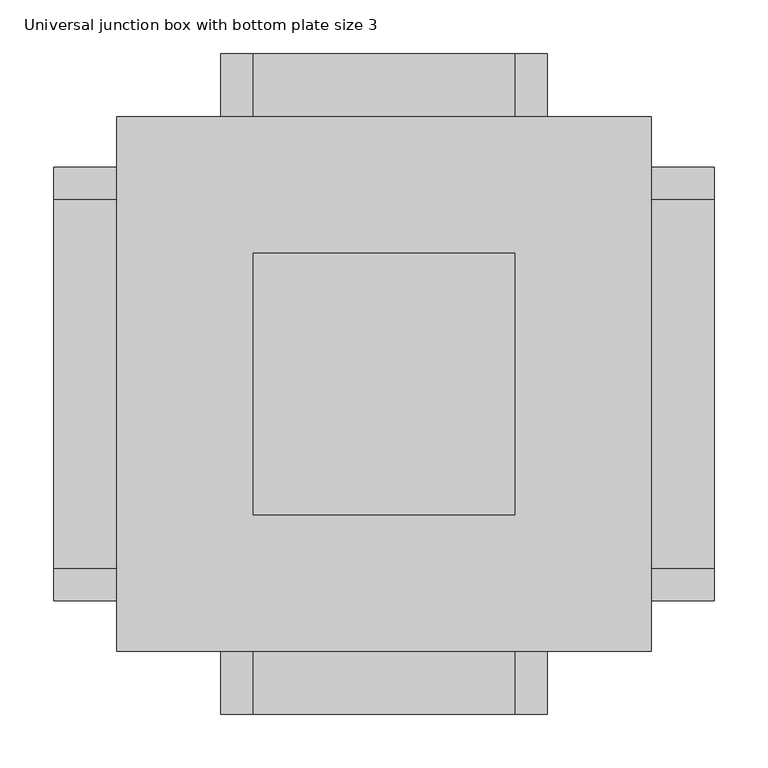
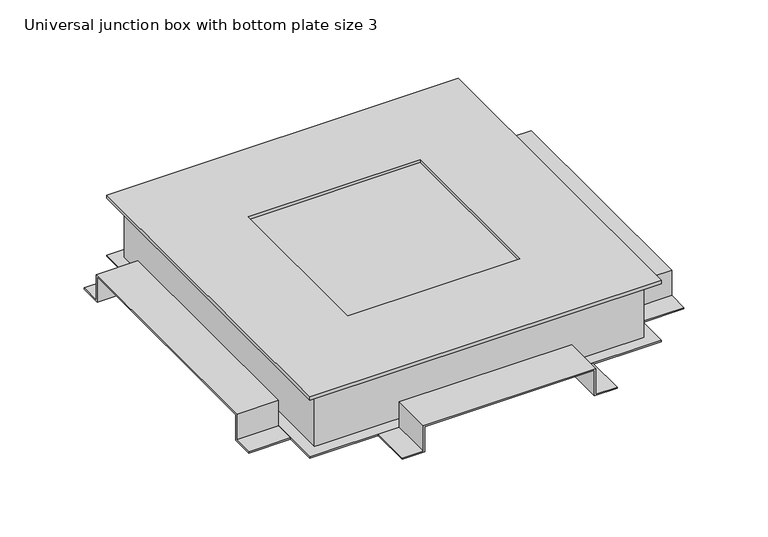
"""IFC4 building model written with IfcOpenShell, lengths in millimetres: cable carrier fitting geometry, Electrical-Installations_Hager_Universal-Junction-Box-With-Bottom-Plate-Size-3 : Universal junction box with bottom plate size 3."""

import ifcopenshell
import ifcopenshell.guid

model = None  # the IFC model being written
_history = None  # IfcOwnerHistory: only IFC2X3 demands one
_inside = {}  # id of a spatial element -> (the spatial element, [elements in it])
_under = {}  # id of a project, library or spatial element -> (it, [spatial elements below it])
_declared = {}  # id of a project -> (the project, [libraries it declares])
_typed = {}  # id of a type object -> (the type object, [elements of that type])
_made_of = {}  # id of a material, layer set ... -> (it, [elements and type objects made of it])


def new_model(schema):
    """Start an empty IFC model of exactly this schema.

    Asked for "IFC4X3", IfcOpenShell would pick the latest addendum, in which some entities
    have other attributes; the version numbers below select the first issue.
    IFC2X3 requires an IfcOwnerHistory on every rooted entity: one is made here for all.
    """
    global model, _history
    if schema == "IFC4X3":
        model = ifcopenshell.file(schema_version=(4, 3, 0, 0))
    else:
        model = ifcopenshell.file(schema=schema)
    _inside.clear()
    _under.clear()
    _declared.clear()
    _typed.clear()
    _made_of.clear()
    _history = None
    if model.schema == "IFC2X3":
        org = make("IfcOrganization", Name="unknown")
        user = make(
            "IfcPersonAndOrganization",
            ThePerson=make("IfcPerson", FamilyName="unknown"),
            TheOrganization=org,
        )
        app = make(
            "IfcApplication",
            ApplicationDeveloper=org,
            Version="unknown",
            ApplicationFullName="unknown",
            ApplicationIdentifier="unknown",
        )
        _history = make(
            "IfcOwnerHistory",
            OwningUser=user,
            OwningApplication=app,
            ChangeAction="ADDED",
            CreationDate=0,
        )
    return model


def make(cls, **values):
    """One entity of the class cls with the attributes given. An attribute that is None is left unset."""
    return model.create_entity(
        cls, **{name: value for name, value in values.items() if value is not None}
    )


def rooted(cls, **values):
    """An entity with a GlobalId (a new one), such as an element, a storey or a relation."""
    return make(cls, GlobalId=ifcopenshell.guid.new(), OwnerHistory=_history, **values)


def si_unit(unit_type, name, prefix=None):
    """IfcSIUnit, for example si_unit("LENGTHUNIT", "METRE", prefix="MILLI")."""
    return make("IfcSIUnit", UnitType=unit_type, Prefix=prefix, Name=name)


def assignment(units):
    """IfcUnitAssignment: the units of a project."""
    return None if units is None else make("IfcUnitAssignment", Units=units)


def point(xyz):
    """IfcCartesianPoint."""
    return None if xyz is None else make("IfcCartesianPoint", Coordinates=xyz)


def direction(xyz):
    """IfcDirection."""
    return None if xyz is None else make("IfcDirection", DirectionRatios=xyz)


def frame(location, z_axis=None, x_axis=None):
    """IfcAxis2Placement3D, a coordinate frame: its origin and axes. An axis left out is left unset."""
    return make(
        "IfcAxis2Placement3D",
        Location=point(location),
        Axis=direction(z_axis),
        RefDirection=direction(x_axis),
    )


def origin():
    """The frame at (0, 0, 0) with its axes left unset."""
    return frame((0.0, 0.0, 0.0))


def place(relative_to, where):
    """IfcLocalPlacement: puts the frame where relative to a parent placement (None: the world)."""
    return make(
        "IfcLocalPlacement", PlacementRelTo=relative_to, RelativePlacement=where
    )


def context(
    kind, dimensions, precision=None, world=None, true_north=None, identifier=None
):
    """IfcGeometricRepresentationContext, for example the 3D "Model" context."""
    return make(
        "IfcGeometricRepresentationContext",
        ContextIdentifier=identifier,
        ContextType=kind,
        CoordinateSpaceDimension=dimensions,
        Precision=precision,
        WorldCoordinateSystem=world,
        TrueNorth=true_north,
    )


def project(units=None, contexts=None):
    """IfcProject with its units and contexts."""
    return rooted(
        "IfcProject",
        Name="project",
        RepresentationContexts=contexts,
        UnitsInContext=assignment(units),
    )


def spatial(cls, under=None, at=None, **own):
    """A site, building, storey or space (cls), placed at a placement, below another one or the project."""
    s = rooted(cls, ObjectPlacement=at, **own)
    if under is not None:
        _under.setdefault(under.id(), (under, []))[1].append(s)
    return s


def polyline(points):
    """IfcPolyline through the points."""
    return make("IfcPolyline", Points=[point(p) for p in points])


def outline(outer, holes=None, kind="AREA"):
    """IfcArbitraryClosedProfileDef: a profile drawn as a closed curve; with holes, ...WithVoids."""
    if holes is None:
        return make("IfcArbitraryClosedProfileDef", ProfileType=kind, OuterCurve=outer)
    return make(
        "IfcArbitraryProfileDefWithVoids",
        ProfileType=kind,
        OuterCurve=outer,
        InnerCurves=holes,
    )


def extrude(swept, where, along, depth):
    """IfcExtrudedAreaSolid: the profile swept, set in the frame where, extruded along a direction by depth."""
    return make(
        "IfcExtrudedAreaSolid",
        SweptArea=swept,
        Position=where,
        ExtrudedDirection=direction(along),
        Depth=depth,
    )


def faces_of(points, faces, orient=None, outer=None):
    """IfcFace entities. A face is a list of loops; a loop is a list of indices into points, from 0.

    orient and outer hold one flag for each loop. By default every Orientation is true, the
    first loop of a face is its IfcFaceOuterBound and the others are IfcFaceBound.
    """
    made = []
    for i, loops in enumerate(faces):
        bounds = []
        for j, loop in enumerate(loops):
            is_outer = j == 0 if outer is None else outer[i][j]
            bounds.append(
                make(
                    "IfcFaceOuterBound" if is_outer else "IfcFaceBound",
                    Bound=make("IfcPolyLoop", Polygon=[points[k] for k in loop]),
                    Orientation=True if orient is None else orient[i][j],
                )
            )
        made.append(make("IfcFace", Bounds=bounds))
    return made


def faceted_brep(points, faces, orient=None, outer=None, voids=None):
    """IfcFacetedBrep: a solid bounded by flat faces; with voids (closed shells), ...WithVoids."""
    shared = [point(p) for p in points]
    hull = make("IfcClosedShell", CfsFaces=faces_of(shared, faces, orient, outer))
    if voids is None:
        return make("IfcFacetedBrep", Outer=hull)
    return make(
        "IfcFacetedBrepWithVoids",
        Outer=hull,
        Voids=[
            make(cls, CfsFaces=faces_of(shared, fs, o, b)) for cls, fs, o, b in voids
        ],
    )


def shape(context_of_items, identifier, shape_type, items):
    """IfcShapeRepresentation: the items that make up one representation, for example the "Body"."""
    return make(
        "IfcShapeRepresentation",
        ContextOfItems=context_of_items,
        RepresentationIdentifier=identifier,
        RepresentationType=shape_type,
        Items=items,
    )


def source(mapping_origin, context_of_items, identifier, shape_type, items):
    """IfcRepresentationMap: a shape defined once, which mapped items show again and again."""
    return make(
        "IfcRepresentationMap",
        MappingOrigin=mapping_origin,
        MappedRepresentation=shape(context_of_items, identifier, shape_type, items),
    )


def transform(
    local_origin,
    x_axis=None,
    y_axis=None,
    z_axis=None,
    scale=None,
    scale2=None,
    scale3=None,
    uniform=True,
):
    """IfcCartesianTransformationOperator3D, or its non-uniform kind. x_axis, y_axis, z_axis: its Axis1, 2, 3."""
    if uniform:
        return make(
            "IfcCartesianTransformationOperator3D",
            Axis1=direction(x_axis),
            Axis2=direction(y_axis),
            LocalOrigin=point(local_origin),
            Scale=scale,
            Axis3=direction(z_axis),
        )
    return make(
        "IfcCartesianTransformationOperator3DnonUniform",
        Axis1=direction(x_axis),
        Axis2=direction(y_axis),
        LocalOrigin=point(local_origin),
        Scale=scale,
        Axis3=direction(z_axis),
        Scale2=scale2,
        Scale3=scale3,
    )


def mapped(mapping_source, mapping_target):
    """IfcMappedItem: shows the shape of a source again, moved by a transform."""
    return make(
        "IfcMappedItem", MappingSource=mapping_source, MappingTarget=mapping_target
    )


def made_of(thing, what):
    """Note that an element or type object is made of a material, layer set ...; save() writes the relation."""
    if what is not None:
        _made_of.setdefault(what.id(), (what, []))[1].append(thing)
    return thing


def element(
    cls,
    number,
    at=None,
    inside=None,
    cuts=None,
    type_object=None,
    material=None,
    context=None,
    identifier="Body",
    shape_type=None,
    held_by="IfcProductDefinitionShape",
    body=None,
    shapes=None,
    **own,
):
    """One element of the class cls, such as IfcWall. Its Tag is "e" and its number.

    at: its placement. inside: the storey or other place that contains it. cuts: it is an
    opening in that element (IfcRelVoidsElement). A single representation is given by context,
    identifier, shape_type and body (its items); several are given by shapes. held_by: the class
    of the entity that holds the representations. save() writes the other relations.
    """
    e = rooted(cls, Tag="e%d" % number, ObjectPlacement=at, **own)
    if body is not None:
        shapes = [shape(context, identifier, shape_type, body)]
    if shapes is not None:
        e.Representation = make(held_by, Representations=shapes)
    if inside is not None:
        _inside.setdefault(inside.id(), (inside, []))[1].append(e)
    if cuts is not None:
        rooted(
            "IfcRelVoidsElement", RelatingBuildingElement=cuts, RelatedOpeningElement=e
        )
    if type_object is not None:
        _typed.setdefault(type_object.id(), (type_object, []))[1].append(e)
    return made_of(e, material)


def aggregate(whole, parts):
    """IfcRelAggregates: a whole, such as a stair, and the parts it consists of."""
    return rooted("IfcRelAggregates", RelatingObject=whole, RelatedObjects=parts)


def save(model, path):
    """Write the relations noted so far, then the file.

    IfcRelAggregates (storeys below a building ...), IfcRelContainedInSpatialStructure (elements
    in a storey), IfcRelDefinesByType, IfcRelAssociatesMaterial and IfcRelDeclares: one each for
    every whole, place, type object, material and project.
    """
    for whole, parts in _under.values():
        aggregate(whole, parts)
    for where, things in _inside.values():
        rooted(
            "IfcRelContainedInSpatialStructure",
            RelatedElements=things,
            RelatingStructure=where,
        )
    for kind, things in _typed.values():
        rooted("IfcRelDefinesByType", RelatedObjects=things, RelatingType=kind)
    for what, things in _made_of.values():
        rooted("IfcRelAssociatesMaterial", RelatedObjects=things, RelatingMaterial=what)
    for by, libraries in _declared.values():
        rooted("IfcRelDeclares", RelatingContext=by, RelatedDefinitions=libraries)
    model.write(path)


def universal_junction_box_with_bottom_plate_size_3_e983a607(model_context):
    return source(origin(), model_context, "Body", "SolidModel", [
        extrude(outline(polyline([(-19.0, -152.0), (-19.0, -120.0), (19.0, -120.0), (19.0, 120.0), (-19.0, 120.0), (-19.0, 152.0), (-17.0, 152.0), (-17.0, 122.0), (21.0, 122.0), (21.0, -122.0), (-17.0, -122.0), (-17.0, -152.0), (-19.0, -152.0)])), frame((0.0, 249.0, 0.0), z_axis=(0.0, 1.0, 0.0), x_axis=(0.0, 0.0, 1.0)), (0.0, 0.0, 1.0), 59.0),
        extrude(outline(polyline([(-202.0, -19.0), (-202.0, -17.0), (-172.0, -17.0), (-172.0, 21.0), (172.0, 21.0), (172.0, -17.0), (202.0, -17.0), (202.0, -19.0), (170.0, -19.0), (170.0, 19.0), (-170.0, 19.0), (-170.0, -19.0), (-202.0, -19.0)])), frame((-308.0, 0.0, 0.0), z_axis=(1.0, 0.0, 0.0), x_axis=(0.0, 1.0, 0.0)), (0.0, 0.0, 1.0), 59.0),
        extrude(outline(polyline([(-19.0, -152.0), (-19.0, -120.0), (19.0, -120.0), (19.0, 120.0), (-19.0, 120.0), (-19.0, 152.0), (-17.0, 152.0), (-17.0, 122.0), (21.0, 122.0), (21.0, -122.0), (-17.0, -122.0), (-17.0, -152.0), (-19.0, -152.0)])), frame((0.0, -308.0, 0.0), z_axis=(0.0, 1.0, 0.0), x_axis=(0.0, 0.0, 1.0)), (0.0, 0.0, 1.0), 59.0),
        extrude(outline(polyline([(-202.0, -19.0), (-202.0, -17.0), (-172.0, -17.0), (-172.0, 21.0), (172.0, 21.0), (172.0, -17.0), (202.0, -17.0), (202.0, -19.0), (170.0, -19.0), (170.0, 19.0), (-170.0, 19.0), (-170.0, -19.0), (-202.0, -19.0)])), frame((249.0, 0.0, 0.0), z_axis=(1.0, 0.0, 0.0), x_axis=(0.0, 1.0, 0.0)), (0.0, 0.0, 1.0), 59.0),
        faceted_brep([(-249.0, -249.0, 73.0), (249.0, -249.0, 73.0), (249.0, 249.0, 73.0), (-249.0, 249.0, 73.0), (-122.0, 122.0, 73.0), (122.0, 122.0, 73.0), (122.0, -122.0, 73.0), (-122.0, -122.0, 73.0), (-249.0, -249.0, 68.0), (-249.0, 249.0, 68.0), (249.0, 249.0, 68.0), (249.0, -249.0, 68.0), (227.0, 227.0, 68.0), (-227.0, 227.0, 68.0), (-227.0, -227.0, 68.0), (227.0, -227.0, 68.0), (-122.0, 122.0, 68.7820613), (122.0, 122.0, 68.7820613), (122.0, -122.0, 68.7820613), (-122.0, -122.0, 68.7820613), (227.0, 227.0, 68.7820613), (227.0, -227.0, 68.7820613), (-227.0, -227.0, 68.7820613), (-227.0, 227.0, 68.7820613)], [[[0, 1, 2, 3], [4, 5, 6, 7]], [[8, 9, 10, 11], [12, 13, 14, 15]], [[1, 0, 8, 11]], [[2, 1, 11, 10]], [[3, 2, 10, 9]], [[0, 3, 9, 8]], [[5, 4, 16, 17]], [[6, 5, 17, 18]], [[7, 6, 18, 19]], [[4, 7, 19, 16]], [[20, 21, 22, 23], [17, 16, 19, 18]], [[20, 23, 13, 12]], [[23, 22, 14, 13]], [[22, 21, 15, 14]], [[21, 20, 12, 15]]]),
        extrude(outline(polyline([(249.0, 249.0), (249.0, -249.0), (-249.0, -249.0), (-249.0, 249.0), (249.0, 249.0)])), frame((0.0, 0.0, -19.0), z_axis=(0.0, 0.0, 1.0), x_axis=(1.0, 0.0, 0.0)), (0.0, 0.0, 1.0), 2.0),
        faceted_brep([(-233.0, 233.0, 68.0), (-233.0, -233.0, 68.0), (233.0, -233.0, 68.0), (233.0, 233.0, 68.0), (-227.0, 227.0, 68.0), (227.0, 227.0, 68.0), (227.0, -227.0, 68.0), (-227.0, -227.0, 68.0), (-233.0, 233.0, -19.0), (233.0, 233.0, -19.0), (233.0, -233.0, -19.0), (-233.0, -233.0, -19.0), (227.0, 227.0, -11.1362798), (-227.0, 227.0, -11.1362798), (-227.0, -227.0, -11.1362798), (227.0, -227.0, -11.1362798)], [[[0, 1, 2, 3], [4, 5, 6, 7]], [[8, 9, 10, 11]], [[1, 0, 8, 11]], [[2, 1, 11, 10]], [[3, 2, 10, 9]], [[0, 3, 9, 8]], [[12, 13, 14, 15]], [[13, 12, 5, 4]], [[14, 13, 4, 7]], [[15, 14, 7, 6]], [[12, 15, 6, 5]]]),
    ])


if __name__ == "__main__":
    model = new_model("IFC4")
    model_context = context("Model", 3, world=origin())
    ifc_project = project(units=[si_unit("LENGTHUNIT", "METRE", prefix="MILLI")], contexts=[model_context])
    site = spatial("IfcSite", under=ifc_project)
    building = spatial("IfcBuilding", under=site)
    placement = place(None, origin())
    universal_junction_box_with_bottom_plate_size_3_shape = universal_junction_box_with_bottom_plate_size_3_e983a607(model_context)
    element("IfcCableCarrierFitting", 1, ObjectType="Electrical-Installations_Hager_Universal-Junction-Box-With-Bottom-Plate-Size-3 : Universal junction box with bottom plate size 3", at=placement, inside=building, context=model_context, shape_type="MappedRepresentation", body=[
        mapped(universal_junction_box_with_bottom_plate_size_3_shape, transform((0.0, 0.0, 0.0), x_axis=(1.0, 0.0, 0.0), y_axis=(0.0, 1.0, 0.0), z_axis=(0.0, 0.0, 1.0))),
    ])
    save(model, "model.ifc")
